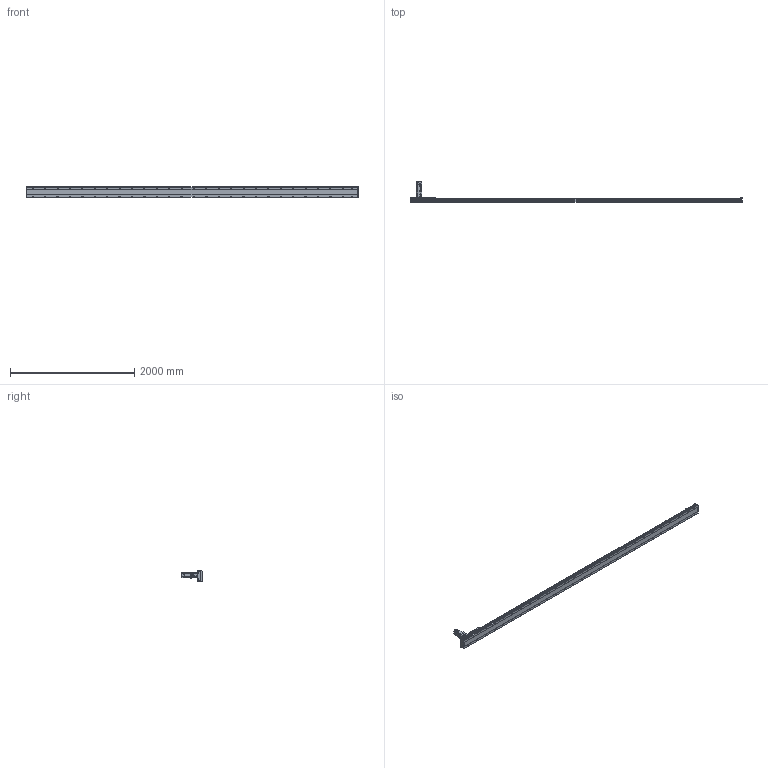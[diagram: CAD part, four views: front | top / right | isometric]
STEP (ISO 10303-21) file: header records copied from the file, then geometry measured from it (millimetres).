
FILE_DESCRIPTION(/* description */ ('STEP AP203'),/* implementation_level */ '2;1');
FILE_NAME(/* name */ 'SHS17A-L13-S4900-BC-T75-C1-N(0)',/* time_stamp */ '2023-03-27T08:59:21+02:00',/* author */ ('License CC BY-ND 4.0'),/* organization */ ('CADENAS'),/* preprocessor_version */ 'ST-DEVELOPER v19.3',/* originating_system */ 'PARTsolutions',/* authorisation */ ' ');
FILE_SCHEMA (('CONFIG_CONTROL_DESIGN'));
Length unit declared in the file: millimetre
Products named in the file (7): SHS17A-L13-S4900-BC-T75-C1-N(0); PSC140-sensor; SHS17A-S4900(0)_body2; T75-p1; SHS17A-S4900_body3; SHS17A-S4900-C1(0)_slider; SHS17A-S4900-C1(0)_body
Assembly tree (13 placements, depth 2):
  SHS17A-L13-S4900-BC-T75-C1-N(0)
    PSC140-sensor  x3
    SHS17A-S4900(0)_body2  x6
    T75-p1
    SHS17A-S4900_body3
    SHS17A-S4900-C1(0)_slider
    SHS17A-S4900-C1(0)_body
Bounding box: 5354 x 333.8 x 193.4 mm (x, y, z)
Volume: 35903647.5 mm3; surface area: 4092574.5 mm2
Topology: 13 solids, 13 shells, 2520 faces, 6446 edges, 4195 vertices
Faces by surface type: plane 1520, cylinder 889, cone 108, torus 3
Full cylindrical faces by diameter (mm): 2.8 x3, 4.134 x24, 4.5 x2, 4.6 x3, 4.917 x15, 5.5 x48, 6 x7, 6.5 x24, 6.647 x62, 6.8 x9, 8 x3, 8.5 x54, 10 x28, 11 x4, 14 x54, 22 x1, 24 x1, 24.2 x1, 28 x1, 28.2 x1, 28.8 x1, 29.8 x1, 48.542 x1, 68 x1, 70 x1, 78 x1, 80 x2
Entity records: 52626 total; most frequent: CARTESIAN_POINT 10698, DIRECTION 8473, ORIENTED_EDGE 8244, EDGE_CURVE 4122, AXIS2_PLACEMENT_3D 3048, VERTEX_POINT 2905, EDGE_LOOP 2469, FACE_BOUND 2469
